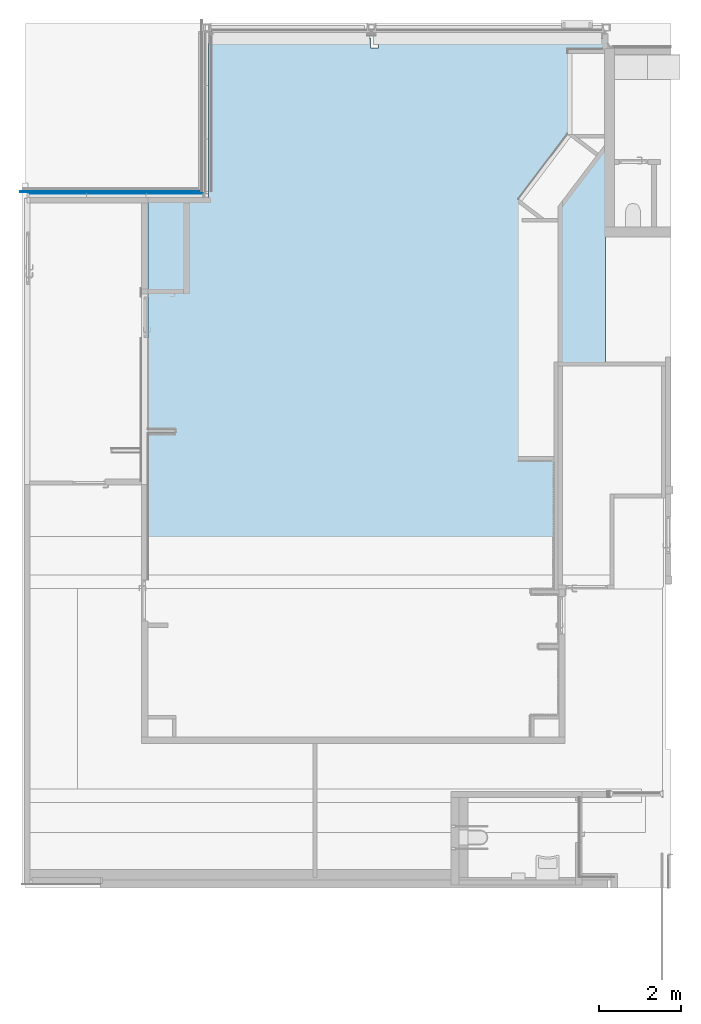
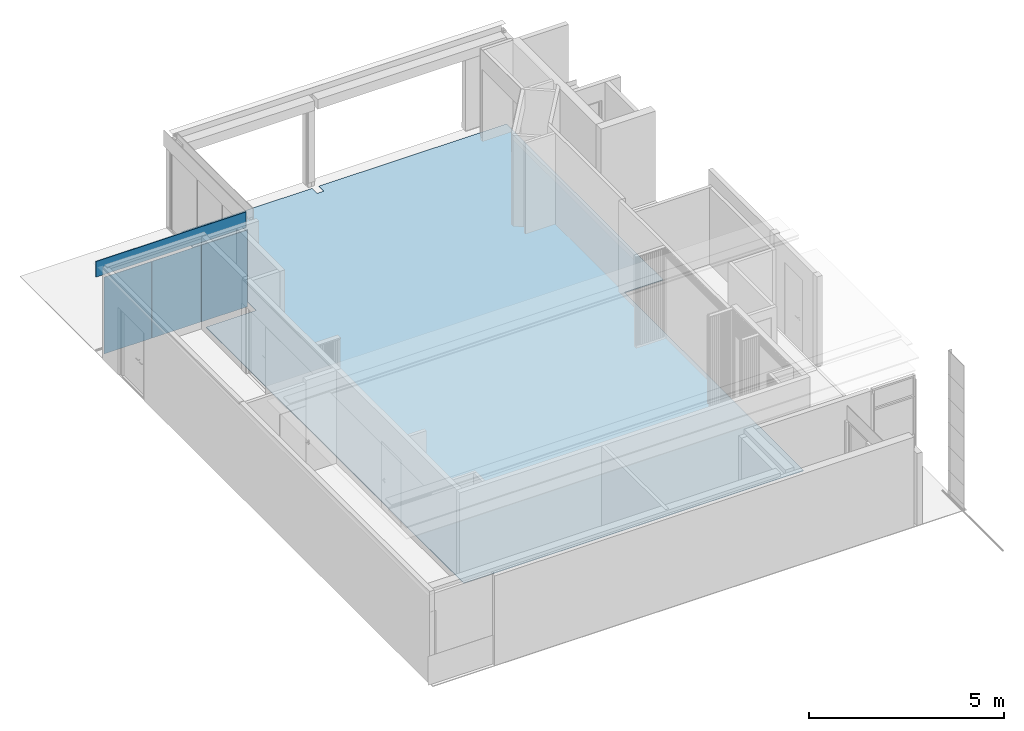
# One storey, part 15 of 37: 4 plates, 1 slab, 2 elements without a shape of their own.
"""IFC2X3 building model written with IfcOpenShell, lengths in millimetres."""

from ifc_helpers import new_model, entity, si_unit, converted_unit, derived_unit, direction, frame, origin, origin_with_axes, origin_2d_with_axis, place, context, subcontext, project, spatial, polyline, rectangle, outline, extrude, source, transform, mapped, material, layer, layer_set, layer_usage, type_object, element, aggregate, save


model = new_model("IFC2X3")

# Units and contexts
model_context = context("Model", 3, precision=0.01, world=frame((0.0, 4.29681676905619e-09, 0.0)), true_north=direction((4.01073788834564e-13, 1.0)))
plan_context = context("Plan", 3, precision=0.01, world=frame((0.0, 4.29681676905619e-09, 0.0)), true_north=direction((4.01073788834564e-13, 1.0)))
body_context = subcontext(model_context, "Body", "Model", "MODEL_VIEW")
ifc_project = project(units=[converted_unit("PLANEANGLEUNIT", "DEGREE", entity("IfcPositiveLengthMeasure", 0.0174532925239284), si_unit("PLANEANGLEUNIT", "RADIAN"), dimensions=[0, 0, 0, 0, 0, 0, 0]), si_unit("AREAUNIT", "SQUARE_METRE"), si_unit("LENGTHUNIT", "METRE", prefix="MILLI"), si_unit("MASSUNIT", "GRAM", prefix="KILO"), si_unit("POWERUNIT", "WATT"), si_unit("PRESSUREUNIT", "PASCAL"), si_unit("FORCEUNIT", "NEWTON", prefix="KILO"), si_unit("ELECTRICVOLTAGEUNIT", "VOLT"), si_unit("ELECTRICCURRENTUNIT", "AMPERE"), si_unit("THERMODYNAMICTEMPERATUREUNIT", "DEGREE_CELSIUS"), si_unit("TIMEUNIT", "SECOND"), si_unit("VOLUMEUNIT", "CUBIC_METRE"), derived_unit("LINEARVELOCITYUNIT", [(si_unit("LENGTHUNIT", "METRE"), 1), (si_unit("TIMEUNIT", "SECOND"), -1)]), derived_unit("VOLUMETRICFLOWRATEUNIT", [(si_unit("VOLUMEUNIT", "CUBIC_METRE"), 1), (si_unit("TIMEUNIT", "SECOND"), -1)]), derived_unit("THERMALTRANSMITTANCEUNIT", [(si_unit("POWERUNIT", "WATT"), 1), (si_unit("THERMODYNAMICTEMPERATUREUNIT", "KELVIN"), -1), (si_unit("AREAUNIT", "SQUARE_METRE"), -1)]), derived_unit("SOUNDPRESSUREUNIT", [(si_unit("PRESSUREUNIT", "PASCAL"), 1)])], contexts=[model_context, plan_context])

# Site, building, storey
site_placement = place(None, origin_with_axes())
site = spatial("IfcSite", under=ifc_project, at=site_placement, Name="ENGM", CompositionType="ELEMENT")
building_placement = place(site_placement, origin_with_axes())
building = spatial("IfcBuilding", under=site, at=building_placement, Name="TS", CompositionType="ELEMENT")
storey_placement = place(building_placement, frame((0.0, 0.0, 210900.0), z_axis=(0.0, 0.0, 1.0), x_axis=(1.0, 0.0, 0.0)))
storey = spatial("IfcBuildingStorey", under=building, at=storey_placement, Name="Nivå F", CompositionType="ELEMENT", Elevation=210900.0)

# Curtain wall, plate
curtain_wall_type_1 = type_object("IfcCurtainWallType", Name="Curtain Wall:A245 - IMK - Metal Kledning", PredefinedType="NOTDEFINED")
curtain_wall_1_placement = place(storey_placement, frame((0.0, 0.0, -210900.0), z_axis=(0.0, 0.0, 1.0), x_axis=(1.0, 0.0, 0.0)))
curtain_wall_1 = element("IfcCurtainWall", 1, at=curtain_wall_1_placement, inside=storey, type_object=curtain_wall_type_1, Name="Curtain Wall:A245 - IMK - Metal Kledning", ObjectType="Curtain Wall:A245 - IMK - Metal Kledning")
ifc_material_1 = material(Name="Metal - Preget plate")
plate_type_1 = type_object("IfcPlateType", Name="System Panel:A245 - KL-M00 - - - skal byttes manuelt", PredefinedType="CURTAIN_PANEL", material=ifc_material_1)
shared_shape_1 = source(origin(), body_context, "Body", "SweptSolid", [
    extrude(rectangle(XDim=20.0, YDim=4435.28326543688, at=origin_2d_with_axis()), frame((0.0, 10.0, 0.0), z_axis=(0.0, 0.0, 1.0), x_axis=(0.0, 1.0, 0.0)), (0.0, 0.0, 1.0), 489.999999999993),
])
plate_1_placement = place(curtain_wall_1_placement, frame((522627.358367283, 457799.999999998, 213410.0), z_axis=(0.0, 0.0, 1.0), x_axis=(-1.0, 0.0, 0.0)))
plate_1 = element("IfcPlate", 2, at=plate_1_placement, type_object=plate_type_1, material=ifc_material_1, Name="System Panel:A245 - KL-M00 - - - skal byttes manuelt", ObjectType="System Panel:A245 - KL-M00 - - - skal byttes manuelt", context=body_context, shape_type="MappedRepresentation", body=[
    mapped(shared_shape_1, transform((0.0, 0.0, 0.0), scale=1.0)),
])
aggregate(curtain_wall_1, [plate_1])

# Curtain wall, plates
curtain_wall_type_2 = type_object("IfcCurtainWallType", Name="Curtain Wall:A242 - IGV - Glass - 10 mm", PredefinedType="NOTDEFINED")
curtain_wall_2_placement = place(storey_placement, frame((0.0, 0.0, -210900.0), z_axis=(0.0, 0.0, 1.0), x_axis=(1.0, 0.0, 0.0)))
curtain_wall_2 = element("IfcCurtainWall", 3, at=curtain_wall_2_placement, inside=storey, type_object=curtain_wall_type_2, Name="Curtain Wall:A242 - IGV - Glass - 10 mm", ObjectType="Curtain Wall:A242 - IGV - Glass - 10 mm")
ifc_material_2 = material(Name="Glass(Avinor)")
plate_type_2 = type_object("IfcPlateType", Name="System Panel:A245 - Glass - 10mm", PredefinedType="CURTAIN_PANEL", material=ifc_material_2)
shared_shape_2 = source(origin(), body_context, "Body", "SweptSolid", [
    extrude(rectangle(XDim=10.0, YDim=1402.5, at=origin_2d_with_axis()), frame((0.0, 0.0, 0.0), z_axis=(0.0, 0.0, 1.0), x_axis=(0.0, 1.0, 0.0)), (0.0, 0.0, 1.0), 2400.00000000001),
])
plate_2_placement = place(curtain_wall_2_placement, frame((521331.250000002, 457749.999999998, 210955.0), z_axis=(0.0, 0.0, 1.0), x_axis=(1.0, 0.0, 0.0)))
plate_2 = element("IfcPlate", 4, at=plate_2_placement, type_object=plate_type_2, material=ifc_material_2, Name="System Panel:A245 - Glass - 10mm", ObjectType="System Panel:A245 - Glass - 10mm", context=body_context, shape_type="MappedRepresentation", body=[
    mapped(shared_shape_2, transform((0.0, 0.0, 0.0), scale=1.0)),
])
plate_type_3 = type_object("IfcPlateType", Name="System Panel:A245 - Glass - 10mm", PredefinedType="CURTAIN_PANEL", material=ifc_material_2)
shared_shape_3 = source(origin(), body_context, "Body", "SweptSolid", [
    extrude(rectangle(XDim=10.0, YDim=1447.49999999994, at=origin_2d_with_axis()), frame((0.0, 0.0, 0.0), z_axis=(0.0, 0.0, 1.0), x_axis=(0.0, 1.0, 0.0)), (0.0, 0.0, 1.0), 2399.99999999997),
])
plate_3_placement = place(curtain_wall_2_placement, frame((522766.250000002, 457749.999999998, 210955.0), z_axis=(0.0, 0.0, 1.0), x_axis=(1.0, 0.0, 0.0)))
plate_3 = element("IfcPlate", 5, at=plate_3_placement, type_object=plate_type_3, material=ifc_material_2, Name="System Panel:A245 - Glass - 10mm", ObjectType="System Panel:A245 - Glass - 10mm", context=body_context, shape_type="MappedRepresentation", body=[
    mapped(shared_shape_3, transform((0.0, 0.0, 0.0), scale=1.0)),
])
plate_type_4 = type_object("IfcPlateType", Name="System Panel:A245 - Glass - 10 mm", PredefinedType="CURTAIN_PANEL", material=ifc_material_2)
shared_shape_4 = source(origin(), body_context, "Body", "SweptSolid", [
    extrude(rectangle(XDim=10.0, YDim=1372.25, at=origin_2d_with_axis()), frame((0.0, -5.0, 0.0), z_axis=(0.0, 0.0, 1.0), x_axis=(0.0, 1.0, 0.0)), (0.0, 0.0, 1.0), 2400.00000000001),
])
plate_4_placement = place(curtain_wall_2_placement, frame((524186.125000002, 457749.999999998, 210955.0), z_axis=(0.0, 0.0, 1.0), x_axis=(1.0, 0.0, 0.0)))
plate_4 = element("IfcPlate", 6, at=plate_4_placement, type_object=plate_type_4, material=ifc_material_2, Name="System Panel:A245 - Glass - 10 mm", ObjectType="System Panel:A245 - Glass - 10 mm", context=body_context, shape_type="MappedRepresentation", body=[
    mapped(shared_shape_4, transform((0.0, 0.0, 0.0), scale=1.0)),
])
aggregate(curtain_wall_2, [plate_2, plate_3, plate_4])

# Slab
ifc_material_3 = material(Name="T2_Naturstein - Skiffer- Tilfeldig mønster2")
ifc_layer = layer(ifc_material_3, 20.0)
ifc_layer_set = layer_set([ifc_layer], Name="Floor:A254  - Naturstein gulv Tilfeldig mønster")
ifc_layer_usage = layer_usage(ifc_layer_set, "AXIS3", "POSITIVE", 0.0)
slab_type = type_object("IfcSlabType", Name="Floor:A254  - Naturstein gulv Tilfeldig mønster", PredefinedType="FLOOR", material=ifc_layer_set)
slab_placement = place(storey_placement, origin_with_axes())
element("IfcSlab", 7, at=slab_placement, inside=storey, type_object=slab_type, material=ifc_layer_usage, Name="Floor:A254  - Naturstein gulv Tilfeldig mønster", ObjectType="Floor:A254  - Naturstein gulv Tilfeldig mønster", PredefinedType="FLOOR", context=body_context, shape_type="SweptSolid", body=[
    extrude(outline(polyline([(-5055.86249999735, 228.559860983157), (-5055.86249999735, -12958.4401390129), (4992.17499998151, -12958.4401390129), (4992.17499998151, -3791.65263901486), (6134.63750000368, -3791.65263901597), (6134.63750000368, 4229.20659753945), (584.63750000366, 4229.20659753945), (584.63750000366, 3974.0598609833), (384.637500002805, 3974.0598609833), (384.637500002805, 4229.20659753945), (-3470.36249999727, 4229.20659753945), (-3470.36249999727, 4089.05986098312), (-3569.86249999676, 4089.05986098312), (-3569.86249999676, 228.559860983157), (-5055.86249999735, 228.559860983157)])), frame((528590.362499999, 457325.863159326, 0.0)), (0.0, 0.0, -1.0), 19.9999999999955),
])

save(model, "model.ifc")
